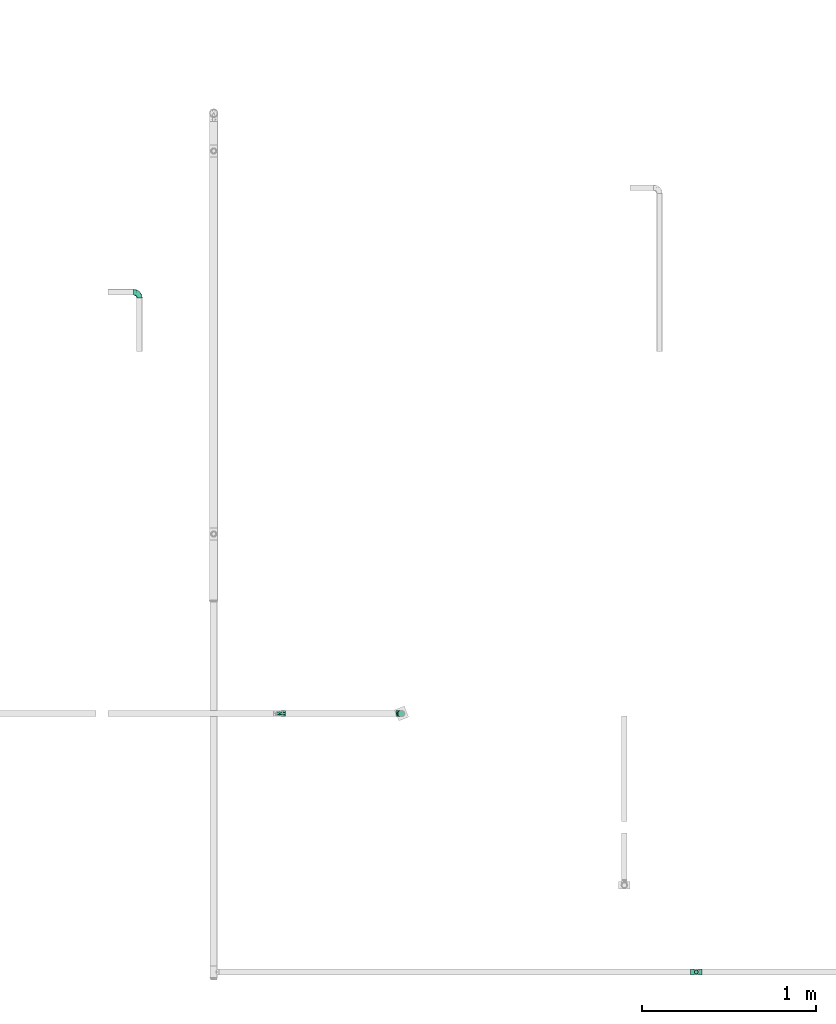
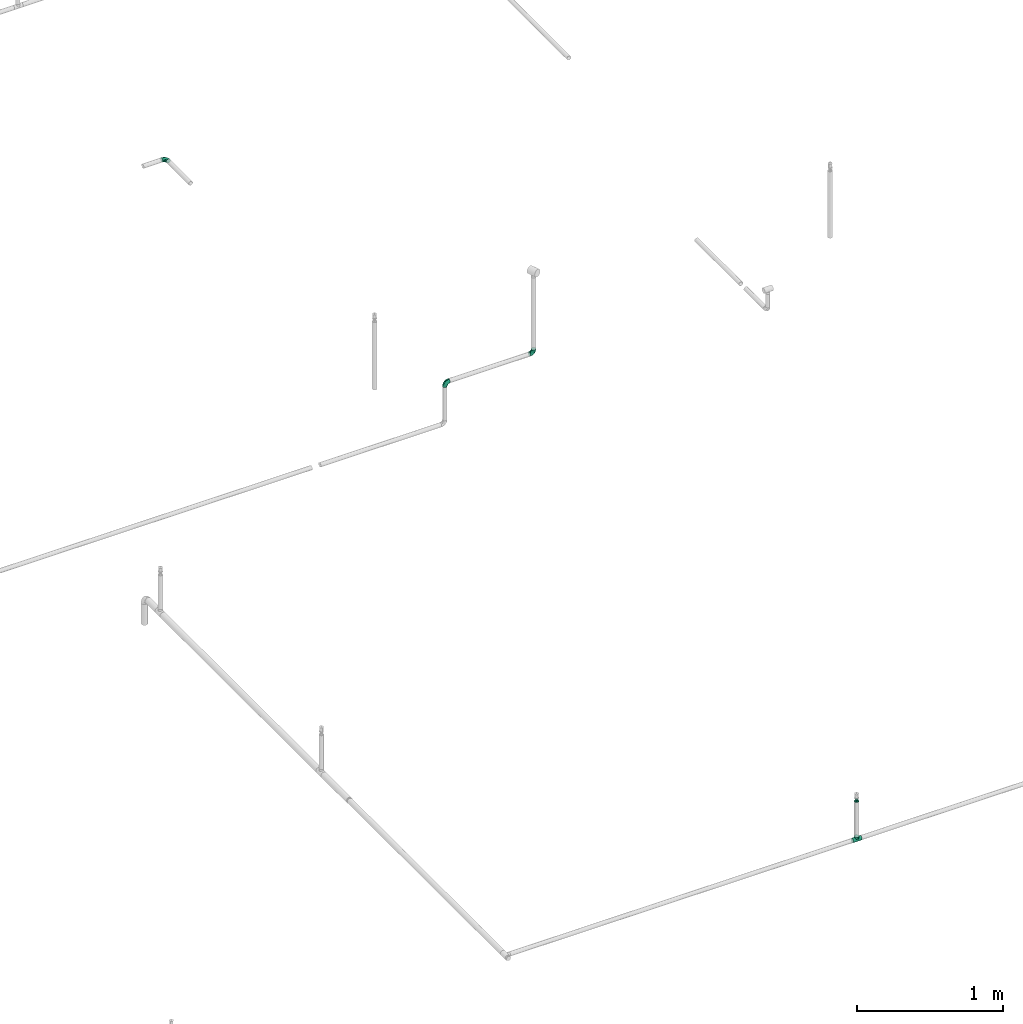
# One storey, part 28 of 63: 5 flow fittings.
"""IFC2X3 building model written with IfcOpenShell, lengths in millimetres."""

import ifcopenshell
import ifcopenshell.guid

model = None  # the IFC model being written
_history = None  # IfcOwnerHistory: only IFC2X3 demands one
_inside = {}  # id of a spatial element -> (the spatial element, [elements in it])
_under = {}  # id of a project, library or spatial element -> (it, [spatial elements below it])
_declared = {}  # id of a project -> (the project, [libraries it declares])
_typed = {}  # id of a type object -> (the type object, [elements of that type])
_made_of = {}  # id of a material, layer set ... -> (it, [elements and type objects made of it])


def new_model(schema):
    """Start an empty IFC model of exactly this schema.

    Asked for "IFC4X3", IfcOpenShell would pick the latest addendum, in which some entities
    have other attributes; the version numbers below select the first issue.
    IFC2X3 requires an IfcOwnerHistory on every rooted entity: one is made here for all.
    """
    global model, _history
    if schema == "IFC4X3":
        model = ifcopenshell.file(schema_version=(4, 3, 0, 0))
    else:
        model = ifcopenshell.file(schema=schema)
    _inside.clear()
    _under.clear()
    _declared.clear()
    _typed.clear()
    _made_of.clear()
    _history = None
    if model.schema == "IFC2X3":
        org = make("IfcOrganization", Name="unknown")
        user = make(
            "IfcPersonAndOrganization",
            ThePerson=make("IfcPerson", FamilyName="unknown"),
            TheOrganization=org,
        )
        app = make(
            "IfcApplication",
            ApplicationDeveloper=org,
            Version="unknown",
            ApplicationFullName="unknown",
            ApplicationIdentifier="unknown",
        )
        _history = make(
            "IfcOwnerHistory",
            OwningUser=user,
            OwningApplication=app,
            ChangeAction="ADDED",
            CreationDate=0,
        )
    return model


def make(cls, **values):
    """One entity of the class cls with the attributes given. An attribute that is None is left unset."""
    return model.create_entity(
        cls, **{name: value for name, value in values.items() if value is not None}
    )


def entity(cls, *values):
    """Any entity or typed value of the class cls, its attributes in the order of the schema. None: left unset."""
    e = model.create_entity(cls)
    for i, value in enumerate(values):
        if value is not None:
            e[i] = value
    return e


def rooted(cls, **values):
    """An entity with a GlobalId (a new one), such as an element, a storey or a relation."""
    return make(cls, GlobalId=ifcopenshell.guid.new(), OwnerHistory=_history, **values)


def si_unit(unit_type, name, prefix=None):
    """IfcSIUnit, for example si_unit("LENGTHUNIT", "METRE", prefix="MILLI")."""
    return make("IfcSIUnit", UnitType=unit_type, Prefix=prefix, Name=name)


def converted_unit(unit_type, name, factor, base, dimensions=None, offset=None):
    """IfcConversionBasedUnit, such as the inch: factor (a typed value) times the base unit."""
    return make(
        "IfcConversionBasedUnit"
        if offset is None
        else "IfcConversionBasedUnitWithOffset",
        ConversionOffset=offset,
        Dimensions=None
        if dimensions is None
        else entity("IfcDimensionalExponents", *dimensions),
        UnitType=unit_type,
        Name=name,
        ConversionFactor=make(
            "IfcMeasureWithUnit", ValueComponent=factor, UnitComponent=base
        ),
    )


def derived_unit(unit_type, elements):
    """IfcDerivedUnit: a product of units, each with its exponent."""
    return make(
        "IfcDerivedUnit",
        Elements=[
            make("IfcDerivedUnitElement", Unit=unit, Exponent=power)
            for unit, power in elements
        ],
        UnitType=unit_type,
    )


def assignment(units):
    """IfcUnitAssignment: the units of a project."""
    return None if units is None else make("IfcUnitAssignment", Units=units)


def point(xyz):
    """IfcCartesianPoint."""
    return None if xyz is None else make("IfcCartesianPoint", Coordinates=xyz)


def direction(xyz):
    """IfcDirection."""
    return None if xyz is None else make("IfcDirection", DirectionRatios=xyz)


def frame(location, z_axis=None, x_axis=None):
    """IfcAxis2Placement3D, a coordinate frame: its origin and axes. An axis left out is left unset."""
    return make(
        "IfcAxis2Placement3D",
        Location=point(location),
        Axis=direction(z_axis),
        RefDirection=direction(x_axis),
    )


def origin_with_axes():
    """The frame at (0, 0, 0) with the z axis (0, 0, 1) and the x axis (1, 0, 0) written out."""
    return frame((0.0, 0.0, 0.0), z_axis=(0.0, 0.0, 1.0), x_axis=(1.0, 0.0, 0.0))


def place(relative_to, where):
    """IfcLocalPlacement: puts the frame where relative to a parent placement (None: the world)."""
    return make(
        "IfcLocalPlacement", PlacementRelTo=relative_to, RelativePlacement=where
    )


def context(
    kind, dimensions, precision=None, world=None, true_north=None, identifier=None
):
    """IfcGeometricRepresentationContext, for example the 3D "Model" context."""
    return make(
        "IfcGeometricRepresentationContext",
        ContextIdentifier=identifier,
        ContextType=kind,
        CoordinateSpaceDimension=dimensions,
        Precision=precision,
        WorldCoordinateSystem=world,
        TrueNorth=true_north,
    )


def subcontext(parent, identifier, kind, view, scale=None):
    """IfcGeometricRepresentationSubContext, for example "Body" below "Model"."""
    return make(
        "IfcGeometricRepresentationSubContext",
        ContextIdentifier=identifier,
        ContextType=kind,
        ParentContext=parent,
        TargetScale=scale,
        TargetView=view,
    )


def project(units=None, contexts=None):
    """IfcProject with its units and contexts."""
    return rooted(
        "IfcProject",
        Name="project",
        RepresentationContexts=contexts,
        UnitsInContext=assignment(units),
    )


def spatial(cls, under=None, at=None, **own):
    """A site, building, storey or space (cls), placed at a placement, below another one or the project."""
    s = rooted(cls, ObjectPlacement=at, **own)
    if under is not None:
        _under.setdefault(under.id(), (under, []))[1].append(s)
    return s


def faces_of(points, faces, orient=None, outer=None):
    """IfcFace entities. A face is a list of loops; a loop is a list of indices into points, from 0.

    orient and outer hold one flag for each loop. By default every Orientation is true, the
    first loop of a face is its IfcFaceOuterBound and the others are IfcFaceBound.
    """
    made = []
    for i, loops in enumerate(faces):
        bounds = []
        for j, loop in enumerate(loops):
            is_outer = j == 0 if outer is None else outer[i][j]
            bounds.append(
                make(
                    "IfcFaceOuterBound" if is_outer else "IfcFaceBound",
                    Bound=make("IfcPolyLoop", Polygon=[points[k] for k in loop]),
                    Orientation=True if orient is None else orient[i][j],
                )
            )
        made.append(make("IfcFace", Bounds=bounds))
    return made


def open_shell(faces, orient=None, outer=None):
    """The faces of one IfcOpenShell. surface_model builds it on its shared points."""
    return ("IfcOpenShell", faces, orient, outer)


def surface_model(cls, points, shells):
    """IfcFaceBasedSurfaceModel or IfcShellBasedSurfaceModel (cls): surfaces that need not close."""
    shared = [point(p) for p in points]
    made = [make(c, CfsFaces=faces_of(shared, fs, o, b)) for c, fs, o, b in shells]
    if cls == "IfcFaceBasedSurfaceModel":
        return make(cls, FbsmFaces=made)
    return make(cls, SbsmBoundary=made)


def shape(context_of_items, identifier, shape_type, items):
    """IfcShapeRepresentation: the items that make up one representation, for example the "Body"."""
    return make(
        "IfcShapeRepresentation",
        ContextOfItems=context_of_items,
        RepresentationIdentifier=identifier,
        RepresentationType=shape_type,
        Items=items,
    )


def source(mapping_origin, context_of_items, identifier, shape_type, items):
    """IfcRepresentationMap: a shape defined once, which mapped items show again and again."""
    return make(
        "IfcRepresentationMap",
        MappingOrigin=mapping_origin,
        MappedRepresentation=shape(context_of_items, identifier, shape_type, items),
    )


def transform(
    local_origin,
    x_axis=None,
    y_axis=None,
    z_axis=None,
    scale=None,
    scale2=None,
    scale3=None,
    uniform=True,
):
    """IfcCartesianTransformationOperator3D, or its non-uniform kind. x_axis, y_axis, z_axis: its Axis1, 2, 3."""
    if uniform:
        return make(
            "IfcCartesianTransformationOperator3D",
            Axis1=direction(x_axis),
            Axis2=direction(y_axis),
            LocalOrigin=point(local_origin),
            Scale=scale,
            Axis3=direction(z_axis),
        )
    return make(
        "IfcCartesianTransformationOperator3DnonUniform",
        Axis1=direction(x_axis),
        Axis2=direction(y_axis),
        LocalOrigin=point(local_origin),
        Scale=scale,
        Axis3=direction(z_axis),
        Scale2=scale2,
        Scale3=scale3,
    )


def mapped(mapping_source, mapping_target):
    """IfcMappedItem: shows the shape of a source again, moved by a transform."""
    return make(
        "IfcMappedItem", MappingSource=mapping_source, MappingTarget=mapping_target
    )


def made_of(thing, what):
    """Note that an element or type object is made of a material, layer set ...; save() writes the relation."""
    if what is not None:
        _made_of.setdefault(what.id(), (what, []))[1].append(thing)
    return thing


def type_object(cls, material=None, **own):
    """A type object (cls), such as IfcWallType, which elements share."""
    return made_of(rooted(cls, **own), material)


def element(
    cls,
    number,
    at=None,
    inside=None,
    cuts=None,
    type_object=None,
    material=None,
    context=None,
    identifier="Body",
    shape_type=None,
    held_by="IfcProductDefinitionShape",
    body=None,
    shapes=None,
    **own,
):
    """One element of the class cls, such as IfcWall. Its Tag is "e" and its number.

    at: its placement. inside: the storey or other place that contains it. cuts: it is an
    opening in that element (IfcRelVoidsElement). A single representation is given by context,
    identifier, shape_type and body (its items); several are given by shapes. held_by: the class
    of the entity that holds the representations. save() writes the other relations.
    """
    e = rooted(cls, Tag="e%d" % number, ObjectPlacement=at, **own)
    if body is not None:
        shapes = [shape(context, identifier, shape_type, body)]
    if shapes is not None:
        e.Representation = make(held_by, Representations=shapes)
    if inside is not None:
        _inside.setdefault(inside.id(), (inside, []))[1].append(e)
    if cuts is not None:
        rooted(
            "IfcRelVoidsElement", RelatingBuildingElement=cuts, RelatedOpeningElement=e
        )
    if type_object is not None:
        _typed.setdefault(type_object.id(), (type_object, []))[1].append(e)
    return made_of(e, material)


def aggregate(whole, parts):
    """IfcRelAggregates: a whole, such as a stair, and the parts it consists of."""
    return rooted("IfcRelAggregates", RelatingObject=whole, RelatedObjects=parts)


def save(model, path):
    """Write the relations noted so far, then the file.

    IfcRelAggregates (storeys below a building ...), IfcRelContainedInSpatialStructure (elements
    in a storey), IfcRelDefinesByType, IfcRelAssociatesMaterial and IfcRelDeclares: one each for
    every whole, place, type object, material and project.
    """
    for whole, parts in _under.values():
        aggregate(whole, parts)
    for where, things in _inside.values():
        rooted(
            "IfcRelContainedInSpatialStructure",
            RelatedElements=things,
            RelatingStructure=where,
        )
    for kind, things in _typed.values():
        rooted("IfcRelDefinesByType", RelatedObjects=things, RelatingType=kind)
    for what, things in _made_of.values():
        rooted("IfcRelAssociatesMaterial", RelatedObjects=things, RelatingMaterial=what)
    for by, libraries in _declared.values():
        rooted("IfcRelDeclares", RelatingContext=by, RelatedDefinitions=libraries)
    model.write(path)


model = new_model("IFC2X3")

# Units and contexts
model_context = context("Model", 3, precision=0.01, world=frame((0.0, 4.29681676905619e-09, 0.0)), true_north=direction((4.01073788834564e-13, 1.0)))
plan_context = context("Plan", 3, precision=0.01, world=frame((0.0, 4.29681676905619e-09, 0.0)), true_north=direction((4.01073788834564e-13, 1.0)))
body_context = subcontext(model_context, "Body", "Model", "MODEL_VIEW")
ifc_project = project(units=[converted_unit("PLANEANGLEUNIT", "DEGREE", entity("IfcPositiveLengthMeasure", 0.0174532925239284), si_unit("PLANEANGLEUNIT", "RADIAN"), dimensions=[0, 0, 0, 0, 0, 0, 0]), si_unit("AREAUNIT", "SQUARE_METRE"), si_unit("LENGTHUNIT", "METRE", prefix="MILLI"), si_unit("MASSUNIT", "GRAM", prefix="KILO"), si_unit("POWERUNIT", "WATT"), si_unit("PRESSUREUNIT", "PASCAL", prefix="KILO"), si_unit("FORCEUNIT", "NEWTON", prefix="KILO"), si_unit("ELECTRICVOLTAGEUNIT", "VOLT"), si_unit("ELECTRICCURRENTUNIT", "AMPERE"), si_unit("THERMODYNAMICTEMPERATUREUNIT", "DEGREE_CELSIUS"), si_unit("TIMEUNIT", "SECOND"), si_unit("VOLUMEUNIT", "CUBIC_METRE"), derived_unit("LINEARVELOCITYUNIT", [(si_unit("LENGTHUNIT", "METRE"), 1), (si_unit("TIMEUNIT", "SECOND"), -1)]), derived_unit("VOLUMETRICFLOWRATEUNIT", [(si_unit("VOLUMEUNIT", "CUBIC_METRE"), 1), (si_unit("TIMEUNIT", "SECOND"), -1)]), derived_unit("THERMALTRANSMITTANCEUNIT", [(si_unit("POWERUNIT", "WATT"), 1), (si_unit("THERMODYNAMICTEMPERATUREUNIT", "KELVIN"), -1), (si_unit("AREAUNIT", "SQUARE_METRE"), -1)]), derived_unit("SOUNDPRESSUREUNIT", [(si_unit("PRESSUREUNIT", "PASCAL"), 1)])], contexts=[model_context, plan_context])

# Site, building, storey
site_placement = place(None, frame((0.0, -4.29681676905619e-09, 0.0), z_axis=(0.0, 0.0, 1.0), x_axis=(1.0, 0.0, 0.0)))
site = spatial("IfcSite", under=ifc_project, at=site_placement, CompositionType="ELEMENT")
building_placement = place(site_placement, frame((0.0, 4.29681676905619e-09, 0.0), z_axis=(0.0, 0.0, 1.0), x_axis=(1.0, 0.0, 0.0)))
building = spatial("IfcBuilding", under=site, at=building_placement, Name="mc-building", CompositionType="ELEMENT")
storey_placement = place(building_placement, frame((0.0, 0.0, 207370.0), z_axis=(0.0, 0.0, 1.0), x_axis=(1.0, 0.0, 0.0)))
storey = spatial("IfcBuildingStorey", under=building, at=storey_placement, Name="Nivå E", CompositionType="ELEMENT", Elevation=207370.0)

# Flow fittings
pipe_fitting_type_1 = type_object("IfcPipeFittingType", Name="magi_pipe_fe_reducer_centric_short_NOR", PredefinedType="TRANSITION")
shared_shape_1 = source(origin_with_axes(), body_context, "Body", "SurfaceModel", [
    surface_model("IfcShellBasedSurfaceModel", [(14.4, 5.35, -9.26647), (14.4, 0.0, -10.7), (14.4, 2.76936, -10.33541), (14.4, 10.33541, -2.76936), (14.4, 7.56604, -7.56604), (14.4, -10.33541, -2.76936), (14.4, 9.26647, -5.35), (14.4, 0.0, 10.7), (14.4, -5.35, -9.26647), (14.4, -2.76936, -10.33541), (14.4, -7.56604, -7.56604), (14.4, -9.26647, -5.35), (14.4, 10.7, 0.0), (14.4, 10.33541, 2.76936), (14.4, 9.26647, 5.35), (14.4, 7.56604, 7.56604), (14.4, 2.76936, 10.33541), (14.4, 5.35, 9.26647), (14.4, -10.33541, 2.76936), (14.4, -7.56604, 7.56604), (14.4, -9.26647, 5.35), (14.4, -10.7, 0.0), (14.4, -2.76936, 10.33541), (14.4, -5.35, 9.26647), (12.4, 2.76936, 10.33541), (12.4, -10.33541, -2.76936), (12.4, 0.0, 10.7), (12.4, 5.35, 9.26647), (12.4, 7.56604, 7.56604), (12.4, 9.26647, 5.35), (12.4, 10.33541, 2.76936), (12.4, -10.33541, 2.76936), (12.4, -2.76936, 10.33541), (12.4, -7.56604, 7.56604), (12.4, -5.35, 9.26647), (12.4, -9.26647, 5.35), (12.4, -10.7, 0.0), (12.4, 10.33541, -2.76936), (12.4, 5.35, -9.26647), (12.4, 9.26647, -5.35), (12.4, 7.56604, -7.56604), (12.4, 2.76936, -10.33541), (12.4, -9.26647, -5.35), (12.4, -5.35, -9.26647), (12.4, -7.56604, -7.56604), (12.4, 0.0, -10.7), (12.4, -2.76936, -10.33541), (12.4, 10.7, 0.0), (-2.0, 11.9501, 11.9501), (-2.0, 0.0, 16.9), (-2.0, 4.37404, 16.32415), (-2.0, 8.45, 14.63583), (-2.0, 14.63583, 8.45), (-2.0, 16.32415, 4.37404), (-2.0, -16.32415, 4.37404), (-2.0, -8.45, 14.63583), (-2.0, -14.63583, 8.45), (-2.0, -11.9501, 11.9501), (-2.0, -4.37404, 16.32415), (-2.0, -16.32415, -4.37404), (-2.0, -16.9, 0.0), (-2.0, -8.45, -14.63583), (-2.0, 16.32415, -4.37404), (-2.0, 11.9501, -11.9501), (-2.0, 14.63583, -8.45), (-2.0, 8.45, -14.63583), (-2.0, 4.37404, -16.32415), (-2.0, 0.0, -16.9), (-2.0, -11.9501, -11.9501), (-2.0, -14.63583, -8.45), (-2.0, -4.37404, -16.32415), (-2.0, 16.9, 0.0), (0.0, 4.37404, -16.32415), (0.0, 8.45, -14.63583), (0.0, 11.9501, -11.9501), (0.0, 0.0, -16.9), (0.0, 16.32415, -4.37404), (0.0, 16.32415, 4.37404), (0.0, 14.63583, -8.45), (0.0, -8.45, -14.63583), (0.0, -4.37404, -16.32415), (0.0, -11.9501, -11.9501), (0.0, -16.32415, -4.37404), (0.0, -14.63583, -8.45), (0.0, -16.32415, 4.37404), (0.0, 16.9, 0.0), (0.0, 14.63583, 8.45), (0.0, 11.9501, 11.9501), (0.0, 4.37404, 16.32415), (0.0, 8.45, 14.63583), (0.0, 0.0, 16.9), (0.0, -14.63583, 8.45), (0.0, -16.9, 0.0), (0.0, -8.45, 14.63583), (0.0, -11.9501, 11.9501), (0.0, -4.37404, 16.32415), (12.4, 9.3625, -2.31662), (0.0, 14.42505, -5.97505), (0.0, 15.66253, -2.98753), (12.4, -6.6875, -6.94985), (0.0, -13.18758, -8.96258), (0.0, 2.98753, -15.66253), (12.4, 0.0, -9.26647), (12.4, 6.6875, -6.94985), (0.0, 8.96258, -13.18758), (12.4, -9.3625, -2.31662), (0.0, -15.66253, -2.98753), (0.0, -14.42505, -5.97505), (0.0, 5.97505, -14.42505), (0.0, -2.98753, -15.66253), (0.0, -8.96258, -13.18758), (0.0, 13.18758, -8.96258), (12.4, 8.025, -4.63324), (12.4, -2.675, -9.26647), (12.4, 2.675, -9.26647), (0.0, -5.97505, -14.42505), (12.4, -8.025, -4.63324), (12.4, -9.3625, 2.31662), (0.0, -14.42505, 5.97505), (0.0, -15.66253, 2.98753), (12.4, 6.6875, 6.94985), (0.0, 13.18758, 8.96258), (0.0, -2.98753, 15.66253), (12.4, 0.0, 9.26647), (12.4, -6.6875, 6.94985), (0.0, -8.96258, 13.18758), (12.4, 9.3625, 2.31662), (0.0, 15.66253, 2.98753), (0.0, 14.42505, 5.97505), (0.0, -5.97505, 14.42505), (0.0, 2.98753, 15.66253), (0.0, 8.96258, 13.18758), (0.0, -13.18758, 8.96258), (12.4, -8.025, 4.63324), (12.4, 2.675, 9.26647), (12.4, -2.675, 9.26647), (0.0, 5.97505, 14.42505), (12.4, 8.025, 4.63324)], [open_shell([[[0, 1, 2]], [[3, 0, 4]], [[5, 0, 3]], [[3, 4, 6]], [[7, 5, 3]], [[1, 8, 9]], [[1, 0, 8]], [[10, 5, 11]], [[5, 10, 8]], [[0, 5, 8]], [[3, 12, 13]], [[13, 14, 15]], [[13, 15, 16]], [[7, 3, 16]], [[16, 15, 17]], [[7, 18, 5]], [[18, 19, 20]], [[21, 5, 18]], [[19, 22, 23]], [[22, 19, 18]], [[7, 22, 18]], [[13, 16, 3]], [[24, 25, 26]], [[27, 25, 24]], [[28, 29, 30]], [[28, 25, 27]], [[31, 26, 25]], [[32, 33, 34]], [[33, 32, 31]], [[33, 31, 35]], [[32, 26, 31]], [[31, 25, 36]], [[30, 37, 28]], [[25, 28, 37]], [[38, 37, 39]], [[37, 38, 25]], [[38, 39, 40]], [[41, 25, 38]], [[42, 43, 44]], [[43, 42, 25]], [[43, 45, 46]], [[43, 25, 41]], [[41, 45, 43]], [[37, 30, 47]], [[25, 5, 36]], [[42, 11, 25]], [[8, 44, 43]], [[42, 44, 10]], [[9, 43, 46]], [[25, 11, 5]], [[5, 21, 36]], [[9, 8, 43]], [[10, 44, 8]], [[10, 11, 42]], [[1, 9, 46]], [[46, 45, 1]], [[41, 2, 45]], [[38, 0, 41]], [[6, 40, 39]], [[38, 40, 4]], [[3, 39, 37]], [[38, 4, 0]], [[0, 2, 41]], [[12, 3, 37]], [[6, 39, 3]], [[6, 4, 40]], [[47, 12, 37]], [[45, 2, 1]], [[30, 13, 47]], [[29, 14, 30]], [[17, 28, 27]], [[29, 28, 15]], [[16, 27, 24]], [[30, 14, 13]], [[13, 12, 47]], [[16, 17, 27]], [[15, 28, 17]], [[15, 14, 29]], [[7, 16, 24]], [[24, 26, 7]], [[32, 22, 26]], [[34, 23, 32]], [[20, 33, 35]], [[34, 33, 19]], [[18, 35, 31]], [[34, 19, 23]], [[23, 22, 32]], [[21, 18, 31]], [[20, 35, 18]], [[20, 19, 33]], [[36, 21, 31]], [[26, 22, 7]], [[48, 49, 50]], [[48, 50, 51]], [[48, 52, 53]], [[48, 53, 49]], [[49, 53, 54]], [[55, 56, 57]], [[55, 58, 49]], [[56, 55, 49]], [[49, 54, 56]], [[54, 59, 60]], [[54, 53, 61]], [[53, 62, 63]], [[63, 62, 64]], [[63, 65, 66]], [[61, 53, 63]], [[67, 63, 66]], [[59, 68, 69]], [[68, 59, 61]], [[61, 67, 70]], [[59, 54, 61]], [[63, 67, 61]], [[53, 71, 62]], [[72, 73, 74]], [[75, 72, 74]], [[74, 76, 77]], [[76, 74, 78]], [[74, 77, 79]], [[75, 79, 80]], [[75, 74, 79]], [[81, 82, 83]], [[82, 81, 79]], [[79, 84, 82]], [[77, 76, 85]], [[77, 86, 87]], [[77, 87, 88]], [[88, 84, 79]], [[88, 87, 89]], [[84, 88, 90]], [[90, 91, 84]], [[92, 82, 84]], [[91, 93, 94]], [[91, 90, 93]], [[93, 90, 95]], [[79, 77, 88]], [[59, 82, 60]], [[69, 83, 59]], [[79, 68, 61]], [[69, 68, 81]], [[80, 61, 70]], [[59, 83, 82]], [[82, 92, 60]], [[80, 79, 61]], [[81, 68, 79]], [[81, 83, 69]], [[75, 80, 70]], [[70, 67, 75]], [[66, 72, 67]], [[65, 73, 66]], [[78, 63, 64]], [[65, 63, 74]], [[76, 64, 62]], [[65, 74, 73]], [[73, 72, 66]], [[85, 76, 62]], [[78, 64, 76]], [[78, 74, 63]], [[71, 85, 62]], [[67, 72, 75]], [[53, 77, 71]], [[52, 86, 53]], [[89, 48, 51]], [[52, 48, 87]], [[88, 51, 50]], [[53, 86, 77]], [[77, 85, 71]], [[88, 89, 51]], [[87, 48, 89]], [[87, 86, 52]], [[90, 88, 50]], [[50, 49, 90]], [[58, 95, 49]], [[55, 93, 58]], [[91, 57, 56]], [[55, 57, 94]], [[84, 56, 54]], [[55, 94, 93]], [[93, 95, 58]], [[92, 84, 54]], [[91, 56, 84]], [[91, 94, 57]], [[60, 92, 54]], [[49, 95, 90]], [[27, 34, 47]], [[47, 34, 43]], [[43, 38, 47]], [[43, 34, 36]], [[90, 87, 94]], [[92, 94, 87]], [[87, 74, 92]], [[75, 92, 74]], [[81, 92, 75]], [[74, 87, 85]], [[96, 97, 98]], [[81, 99, 100]], [[101, 102, 75]], [[98, 85, 47]], [[74, 103, 104]], [[104, 103, 38]], [[105, 106, 107]], [[38, 108, 104]], [[102, 109, 75]], [[110, 99, 81]], [[47, 96, 98]], [[103, 111, 112]], [[109, 102, 113]], [[36, 92, 106]], [[102, 101, 114]], [[110, 115, 43]], [[96, 112, 97]], [[107, 116, 105]], [[36, 106, 105]], [[113, 115, 109]], [[43, 115, 113]], [[116, 107, 100]], [[108, 38, 114]], [[111, 103, 74]], [[111, 97, 112]], [[99, 110, 43]], [[116, 100, 99]], [[101, 108, 114]], [[117, 118, 119]], [[87, 120, 121]], [[122, 123, 90]], [[119, 92, 36]], [[94, 124, 125]], [[125, 124, 34]], [[126, 127, 128]], [[34, 129, 125]], [[123, 130, 90]], [[131, 120, 87]], [[36, 117, 119]], [[124, 132, 133]], [[130, 123, 134]], [[47, 85, 127]], [[123, 122, 135]], [[131, 136, 27]], [[117, 133, 118]], [[128, 137, 126]], [[47, 127, 126]], [[134, 136, 130]], [[27, 136, 134]], [[137, 128, 121]], [[129, 34, 135]], [[132, 124, 94]], [[132, 118, 133]], [[120, 131, 27]], [[137, 121, 120]], [[122, 129, 135]]])]),
])
flow_fitting_1_placement = place(storey_placement, frame((722412.90183, 434695.91689, 3018.36794), z_axis=(0.0, -1.0, 0.0), x_axis=(0.0, 0.0, 1.0)))
element("IfcFlowFitting", 1, at=flow_fitting_1_placement, inside=storey, type_object=pipe_fitting_type_1, Name="magi_pipe_fe_reducer_centric_short_NOR", context=body_context, shape_type="MappedRepresentation", body=[
    mapped(shared_shape_1, transform((0.0, 0.0, 0.0), scale=1.0)),
])
pipe_fitting_type_2 = type_object("IfcPipeFittingType", Name="magi_pipe_fe_tee_centric_90_NOR", PredefinedType="JUNCTION")
shared_shape_2 = source(origin_with_axes(), body_context, "Body", "SurfaceModel", [
    surface_model("IfcShellBasedSurfaceModel", [(-33.8, 4.37404, -16.32415), (-33.8, 0.0, -16.9), (-33.8, 16.32415, -4.37404), (-33.8, 8.45, -14.63583), (-33.8, 11.9501, -11.9501), (-33.8, 14.63583, -8.45), (-33.8, -16.9, 0.0), (-33.8, -11.9501, -11.9501), (-33.8, -14.63583, -8.45), (-33.8, -8.45, -14.63583), (-33.8, -4.37404, -16.32415), (-33.8, -16.32415, -4.37404), (-33.8, 14.63583, 8.45), (-33.8, 16.32415, 4.37404), (-33.8, -8.45, 14.63583), (-33.8, 8.45, 14.63583), (-33.8, 11.9501, 11.9501), (-33.8, 4.37404, 16.32415), (-33.8, 0.0, 16.9), (-33.8, -11.9501, 11.9501), (-33.8, -14.63583, 8.45), (-33.8, -16.32415, 4.37404), (-33.8, -4.37404, 16.32415), (-33.8, 16.9, 0.0), (33.8, 4.37404, -16.32415), (33.8, -16.9, 0.0), (33.8, 0.0, -16.9), (33.8, 14.63583, -8.45), (33.8, 8.45, -14.63583), (33.8, 16.32415, -4.37404), (33.8, 11.9501, -11.9501), (33.8, -16.32415, 4.37404), (33.8, -8.45, -14.63583), (33.8, -4.37404, -16.32415), (33.8, -11.9501, -11.9501), (33.8, -14.63583, -8.45), (33.8, -16.32415, -4.37404), (33.8, 16.32415, 4.37404), (33.8, 8.45, 14.63583), (33.8, 14.63583, 8.45), (33.8, 11.9501, 11.9501), (33.8, -8.45, 14.63583), (33.8, 4.37404, 16.32415), (33.8, -14.63583, 8.45), (33.8, -11.9501, 11.9501), (33.8, 0.0, 16.9), (33.8, -4.37404, 16.32415), (33.8, 16.9, 0.0), (16.28698, -16.28698, 4.51047), (16.9, -16.9, 0.0), (14.62704, -14.62704, 8.4652), (9.47213, -9.47213, 13.99602), (12.26343, -12.26343, 11.62834), (-16.9, -16.9, 0.0), (-16.28698, -16.28698, 4.51047), (-14.62704, -14.62704, 8.4652), (-12.26343, -12.26343, 11.62834), (-9.47213, -9.47213, 13.99602), (-6.42894, -6.42894, 15.62942), (6.42894, -6.42894, 15.62942), (3.24522, -3.24522, 16.58549), (0.0, 0.0, 16.9), (-3.24522, -3.24522, 16.58549), (3.24522, -3.24522, -16.58549), (0.0, 0.0, -16.9), (-3.24522, -3.24522, -16.58549), (-6.42894, -6.42894, -15.62942), (6.42894, -6.42894, -15.62942), (9.47213, -9.47213, -13.99602), (12.26343, -12.26343, -11.62834), (14.62704, -14.62704, -8.4652), (16.28698, -16.28698, -4.51047), (-9.47213, -9.47213, -13.99602), (-12.26343, -12.26343, -11.62834), (-16.28698, -16.28698, -4.51047), (-14.62704, -14.62704, -8.4652), (4.37404, -25.35, -16.32415), (-16.9, -25.35, 0.0), (0.0, -25.35, -16.9), (14.63583, -25.35, -8.45), (8.45, -25.35, -14.63583), (16.32415, -25.35, -4.37404), (11.9501, -25.35, -11.9501), (-11.9501, -25.35, -11.9501), (-8.45, -25.35, -14.63583), (-4.37404, -25.35, -16.32415), (-14.63583, -25.35, -8.45), (-16.32415, -25.35, -4.37404), (16.9, -25.35, 0.0), (8.45, -25.35, 14.63583), (16.32415, -25.35, 4.37404), (14.63583, -25.35, 8.45), (-8.45, -25.35, 14.63583), (11.9501, -25.35, 11.9501), (4.37404, -25.35, 16.32415), (-16.32415, -25.35, 4.37404), (-11.9501, -25.35, 11.9501), (-14.63583, -25.35, 8.45), (0.0, -25.35, 16.9), (-4.37404, -25.35, 16.32415)], [open_shell([[[0, 1, 2]], [[3, 0, 4]], [[0, 2, 5]], [[4, 0, 5]], [[6, 2, 1]], [[7, 8, 9]], [[1, 10, 9]], [[11, 6, 8]], [[1, 9, 8]], [[1, 8, 6]], [[6, 12, 2]], [[12, 13, 2]], [[14, 12, 6]], [[12, 14, 15]], [[16, 12, 15]], [[17, 15, 18]], [[19, 14, 20]], [[21, 20, 14]], [[22, 18, 14]], [[14, 6, 21]], [[14, 18, 15]], [[23, 2, 13]], [[24, 25, 26]], [[27, 24, 28]], [[27, 29, 24]], [[27, 28, 30]], [[31, 25, 24]], [[26, 32, 33]], [[26, 34, 32]], [[35, 25, 36]], [[35, 34, 26]], [[25, 35, 26]], [[24, 29, 31]], [[29, 37, 38]], [[38, 37, 39]], [[38, 31, 29]], [[38, 39, 40]], [[41, 38, 42]], [[43, 41, 44]], [[41, 43, 31]], [[41, 45, 46]], [[41, 31, 38]], [[42, 45, 41]], [[29, 47, 37]], [[31, 43, 48]], [[25, 31, 49]], [[49, 31, 48]], [[43, 50, 48]], [[44, 41, 51]], [[50, 43, 52]], [[51, 52, 44]], [[52, 43, 44]], [[53, 54, 21]], [[53, 21, 6]], [[21, 54, 20]], [[54, 55, 20]], [[56, 57, 19]], [[19, 20, 56]], [[19, 57, 14]], [[56, 20, 55]], [[14, 57, 58]], [[51, 41, 59]], [[60, 45, 61]], [[59, 46, 60]], [[46, 59, 41]], [[60, 46, 45]], [[61, 45, 42]], [[39, 37, 13]], [[16, 38, 40]], [[12, 40, 39]], [[42, 38, 15]], [[23, 37, 47]], [[62, 61, 18]], [[62, 22, 58]], [[22, 62, 18]], [[58, 22, 14]], [[61, 17, 18]], [[42, 17, 61]], [[15, 17, 42]], [[15, 38, 16]], [[12, 16, 40]], [[13, 12, 39]], [[37, 23, 13]], [[5, 27, 30]], [[23, 47, 29]], [[30, 28, 3]], [[27, 2, 29]], [[26, 33, 63]], [[26, 64, 24]], [[64, 26, 63]], [[28, 24, 0]], [[64, 0, 24]], [[4, 30, 3]], [[2, 27, 5]], [[5, 30, 4]], [[2, 23, 29]], [[65, 66, 10]], [[1, 0, 64]], [[1, 65, 10]], [[66, 9, 10]], [[0, 3, 28]], [[1, 64, 65]], [[63, 33, 67]], [[32, 34, 68]], [[69, 68, 34]], [[35, 70, 69]], [[69, 34, 35]], [[32, 68, 67]], [[36, 25, 49]], [[36, 71, 35]], [[71, 36, 49]], [[35, 71, 70]], [[72, 9, 66]], [[72, 7, 9]], [[7, 72, 73]], [[7, 73, 8]], [[74, 53, 11]], [[75, 74, 8]], [[74, 11, 8]], [[11, 53, 6]], [[75, 8, 73]], [[32, 67, 33]], [[76, 77, 78]], [[79, 76, 80]], [[79, 81, 76]], [[79, 80, 82]], [[77, 76, 81]], [[78, 83, 84]], [[84, 85, 78]], [[86, 77, 87]], [[83, 78, 86]], [[77, 86, 78]], [[81, 88, 77]], [[89, 88, 90]], [[89, 90, 91]], [[92, 77, 89]], [[89, 91, 93]], [[92, 89, 94]], [[95, 96, 97]], [[96, 95, 92]], [[92, 98, 99]], [[95, 77, 92]], [[94, 98, 92]], [[89, 77, 88]], [[77, 95, 53]], [[54, 53, 95]], [[97, 96, 56]], [[96, 92, 57]], [[95, 97, 54]], [[58, 92, 99]], [[55, 54, 97]], [[56, 55, 97]], [[58, 57, 92]], [[98, 61, 62]], [[58, 99, 62]], [[56, 96, 57]], [[62, 99, 98]], [[94, 60, 98]], [[89, 59, 94]], [[91, 90, 48]], [[52, 93, 91]], [[93, 51, 89]], [[49, 90, 88]], [[59, 60, 94]], [[51, 59, 89]], [[49, 48, 90]], [[50, 52, 91]], [[48, 50, 91]], [[51, 93, 52]], [[98, 60, 61]], [[88, 81, 49]], [[71, 49, 81]], [[79, 82, 69]], [[82, 80, 68]], [[81, 79, 71]], [[67, 80, 76]], [[70, 71, 79]], [[69, 70, 79]], [[67, 68, 80]], [[78, 64, 63]], [[67, 76, 63]], [[69, 82, 68]], [[63, 76, 78]], [[85, 65, 78]], [[84, 66, 85]], [[86, 87, 74]], [[86, 73, 83]], [[72, 84, 83]], [[53, 87, 77]], [[66, 65, 85]], [[72, 66, 84]], [[53, 74, 87]], [[75, 73, 86]], [[74, 75, 86]], [[72, 83, 73]], [[78, 65, 64]]])]),
])
flow_fitting_2_placement = place(storey_placement, frame((722412.90183, 434695.91689, 2700.0), z_axis=(0.0, -1.0, 0.0), x_axis=(-1.0, 0.0, 0.0)))
element("IfcFlowFitting", 2, at=flow_fitting_2_placement, inside=storey, type_object=pipe_fitting_type_2, Name="magi_pipe_fe_tee_centric_90_NOR", context=body_context, shape_type="MappedRepresentation", body=[
    mapped(shared_shape_2, transform((0.0, 0.0, 0.0), scale=1.0)),
])
pipe_fitting_type_3 = type_object("IfcPipeFittingType", Name="magi_pipe_fe_elbow_short_001", PredefinedType="BEND")
shared_shape_3 = source(origin_with_axes(), body_context, "Body", "SurfaceModel", [
    surface_model("IfcShellBasedSurfaceModel", [(-33.8, 8.45, -14.63583), (-33.8, 4.37404, -16.32415), (-33.8, 11.9501, -11.9501), (-33.8, -11.9501, -11.9501), (-33.8, -14.63583, -8.45), (-33.8, -8.45, -14.63583), (-33.8, 0.0, -16.9), (-33.8, -4.37404, -16.32415), (-33.8, -4.37404, 16.32415), (-33.8, 0.0, 16.9), (-33.8, -8.45, 14.63583), (-33.8, 16.32415, -4.37404), (-33.8, 14.63583, -8.45), (-33.8, -16.32415, -4.37404), (-33.8, -16.9, 0.0), (-33.8, -16.32415, 4.37404), (-33.8, 11.9501, 11.9501), (-33.8, 14.63583, 8.45), (-33.8, 16.32415, 4.37404), (-33.8, 4.37404, 16.32415), (-33.8, 8.45, 14.63583), (-33.8, -14.63583, 8.45), (-33.8, -11.9501, 11.9501), (-33.8, 16.9, 0.0), (-11.9501, 33.8, -11.9501), (0.0, 33.8, -16.9), (-4.37404, 33.8, -16.32415), (-8.45, 33.8, -14.63583), (-14.63583, 33.8, -8.45), (-16.32415, 33.8, -4.37404), (14.63583, 33.8, -8.45), (8.45, 33.8, 14.63583), (16.32415, 33.8, -4.37404), (8.45, 33.8, -14.63583), (11.9501, 33.8, -11.9501), (4.37404, 33.8, -16.32415), (16.32415, 33.8, 4.37404), (16.9, 33.8, 0.0), (-11.9501, 33.8, 11.9501), (-16.32415, 33.8, 4.37404), (-14.63583, 33.8, 8.45), (-8.45, 33.8, 14.63583), (-4.37404, 33.8, 16.32415), (11.9501, 33.8, 11.9501), (14.63583, 33.8, 8.45), (0.0, 33.8, 16.9), (4.37404, 33.8, 16.32415), (-16.9, 33.8, 0.0), (-24.79389, -13.12945, 9.48721), (-22.19287, -9.75018, 12.59315), (-24.09897, -14.97035, 0.0), (-14.93934, -10.76256, 8.5297), (-22.46095, -14.75051, 5.27077), (14.75051, 22.46094, 5.27077), (11.9251, 13.23888, 4.33236), (13.04069, 14.39795, 0.0), (7.71387, 13.68847, 11.55891), (9.75018, 22.19287, 12.59315), (4.10169, 13.0571, 14.04018), (-24.84007, -6.39063, 15.2048), (-25.81779, -2.23879, 16.61097), (-23.66549, 2.59054, 16.87119), (-26.50418, 14.06512, 11.08152), (-24.21253, 17.66365, 7.72657), (-29.58514, 15.86957, 7.00283), (-6.17382, -7.5455, 0.0), (-13.23888, -11.9251, 4.33236), (-14.39795, -13.04069, 0.0), (-17.81434, 18.87373, 11.97104), (-6.30846, 29.15138, 15.82987), (-2.31622, 25.28002, 16.85849), (-29.23923, 10.23435, 13.77053), (-1.45439, -2.85688, 7.61475), (-0.28326, 0.34872, 10.09509), (-5.74484, -4.04709, 10.4122), (-4.41137, 11.31918, 16.59407), (-8.39727, 3.10034, 15.7812), (-1.72649, 9.1306, 15.53089), (-17.39909, 24.75344, 7.64977), (-26.19233, 20.0512, 0.0), (-28.14518, 17.29657, 4.25857), (-26.05147, 6.6281, 15.96447), (-5.87354, 16.61944, 16.86968), (-12.51807, 12.51807, 16.48937), (-10.06312, 7.38516, 16.81295), (-3.01882, 3.01882, 13.81718), (-13.0571, -4.10169, 14.04018), (-16.82553, -0.15166, 16.38038), (10.76256, 14.93934, 8.5297), (13.12945, 24.79389, 9.48721), (6.39063, 24.84007, 15.2048), (2.23879, 25.81779, 16.61097), (-13.68847, -7.71387, 11.55891), (14.97035, 24.09897, 0.0), (-7.30894, 22.89991, 16.09489), (-10.67958, 26.17414, 14.008), (-12.78295, 18.26924, 15.06066), (-13.88562, 22.45231, 12.93244), (-18.04944, 15.16501, 14.04434), (-23.11658, 20.08178, 4.02986), (-21.84989, 21.84989, 0.0), (-18.55817, 25.48277, 3.93065), (-13.95142, 26.94732, 11.03289), (-18.57098, 7.23906, 16.59756), (-16.58335, 4.14122, 16.89279), (-17.96666, 11.46709, 15.63151), (-9.84453, 17.54304, 16.18938), (0.15166, 16.82553, 16.38038), (-23.27207, 11.47201, 14.23154), (3.84842, 5.86994, 10.70473), (-8.0212, -7.54413, 7.93275), (1.00345, -2.19508, 4.57414), (5.13203, 3.01004, 5.90201), (5.24161, 1.7543, 2.53265), (8.70457, 7.04947, 3.99182), (-20.0512, 26.19233, 0.0), (8.4852, 8.76699, 7.09296), (-4.55488, -6.72064, 4.90681), (2.05031, -2.05031, 0.0), (7.5455, 6.17382, 0.0), (-26.75399, 2.1369, -16.845), (-14.61995, 24.73803, -11.27736), (-28.45274, -13.45335, -9.81895), (-26.00469, 6.63555, -15.96645), (-23.06726, 20.04573, -4.26202), (-13.80647, -4.26506, -14.17873), (-14.67501, -0.21081, -16.07388), (-6.7902, -0.2828, -13.8478), (-24.53586, 11.08096, -14.13417), (-26.72048, 14.00837, -11.05776), (10.0967, 24.44989, -12.75976), (5.83237, 21.40218, -15.03047), (6.66249, 28.54238, -15.38093), (-20.38182, 15.48705, -12.74596), (12.53268, 21.23441, -9.15363), (12.54494, 15.67504, -5.54878), (9.7522, 12.89279, -8.66343), (-15.65186, 19.64213, -13.01327), (-12.03528, 20.66498, -14.67665), (-15.61907, 15.61906, -14.83879), (-25.56551, -15.26206, 0.0), (-24.65452, -15.12934, -5.50955), (13.45335, 28.45274, -9.81895), (15.12934, 24.65452, -5.50955), (-7.35442, -8.31014, -5.65563), (-15.67504, -12.54494, -5.54878), (-24.44989, -10.0967, -12.75976), (0.16522, 0.41303, -9.71728), (-5.70658, -5.33066, -8.89288), (-5.13869, -2.37198, -11.53565), (-21.23441, -12.53268, -9.15363), (0.71146, 7.93863, -14.09382), (0.21081, 14.67501, -16.07388), (3.49291, 14.42772, -14.76381), (-24.89911, -2.13088, -16.591), (-28.54238, -6.66249, -15.38093), (-18.44386, -7.71663, -13.26957), (2.13088, 24.89911, -16.591), (-28.64342, 17.44413, -2.89318), (1.70017, -1.28722, -5.09504), (-16.57067, 26.81947, -7.36596), (-17.69055, 27.4263, -3.76405), (-12.89279, -9.7522, -8.66343), (-5.96611, 5.96611, -15.95814), (-20.53709, 20.09345, -8.28985), (-2.1369, 26.75399, -16.845), (-6.89872, 24.58781, -16.02578), (-10.60739, 26.53157, -13.98044), (-21.40218, -5.83237, -15.03047), (2.93192, 5.89627, -11.55917), (6.89393, 12.61842, -11.82233), (5.58056, 5.95325, -8.79455), (-3.99512, 18.61798, -16.89635), (8.31014, 7.35442, -5.65563), (-9.1383, 9.86148, -16.89041), (-9.99983, 16.02119, -16.39699), (-16.68576, 9.78031, -16.34199), (-27.01915, 16.61158, -7.12979), (15.26206, 25.56551, 0.0), (-18.61798, 3.99512, -16.89635), (-19.37495, 27.82495, 0.0), (-12.61842, -6.89393, -11.82233), (-18.84705, 19.14018, -10.96545)], [open_shell([[[0, 1, 2]], [[3, 4, 5]], [[6, 7, 5]], [[8, 9, 10]], [[1, 6, 2]], [[11, 12, 2]], [[4, 2, 6]], [[2, 13, 10]], [[5, 4, 6]], [[2, 4, 13]], [[14, 15, 13]], [[11, 2, 16]], [[11, 17, 18]], [[11, 16, 17]], [[19, 20, 16]], [[16, 2, 10]], [[19, 16, 10]], [[21, 22, 15]], [[22, 13, 15]], [[22, 10, 13]], [[10, 9, 19]], [[11, 18, 23]], [[24, 25, 26]], [[24, 26, 27]], [[24, 28, 29]], [[25, 24, 30]], [[31, 32, 24]], [[33, 30, 34]], [[33, 35, 25]], [[25, 30, 33]], [[32, 30, 24]], [[32, 36, 37]], [[38, 24, 29]], [[39, 40, 29]], [[40, 38, 29]], [[38, 41, 42]], [[38, 31, 24]], [[31, 38, 42]], [[36, 43, 44]], [[36, 32, 43]], [[31, 45, 46]], [[32, 31, 43]], [[42, 45, 31]], [[39, 29, 47]], [[22, 48, 49]], [[15, 14, 50]], [[51, 48, 52]], [[53, 54, 55]], [[48, 22, 21]], [[15, 52, 21]], [[56, 57, 58]], [[49, 10, 22]], [[49, 59, 10]], [[9, 60, 61]], [[62, 63, 64]], [[65, 66, 67]], [[57, 43, 31]], [[62, 68, 63]], [[42, 69, 70]], [[20, 71, 16]], [[8, 60, 9]], [[72, 73, 74]], [[75, 76, 77]], [[16, 62, 17]], [[40, 39, 78]], [[79, 23, 80]], [[64, 18, 17]], [[9, 61, 19]], [[19, 81, 20]], [[82, 83, 84]], [[74, 85, 86]], [[59, 86, 87]], [[88, 89, 57]], [[90, 31, 46]], [[44, 53, 36]], [[46, 45, 91]], [[54, 53, 88]], [[44, 89, 53]], [[92, 86, 49]], [[89, 44, 43]], [[10, 59, 8]], [[53, 55, 93]], [[93, 36, 53]], [[66, 52, 67]], [[94, 82, 70]], [[95, 96, 94]], [[97, 98, 96]], [[79, 99, 100]], [[41, 38, 95]], [[101, 100, 99]], [[68, 78, 63]], [[42, 41, 69]], [[23, 18, 80]], [[95, 94, 69]], [[78, 101, 99]], [[38, 102, 95]], [[70, 45, 42]], [[97, 95, 102]], [[15, 50, 52]], [[90, 57, 31]], [[57, 90, 58]], [[81, 19, 61]], [[103, 104, 84]], [[105, 81, 103]], [[38, 40, 102]], [[106, 96, 83]], [[94, 106, 82]], [[91, 70, 107]], [[71, 62, 16]], [[62, 108, 98]], [[86, 59, 49]], [[67, 52, 50]], [[60, 59, 87]], [[92, 49, 51]], [[86, 85, 76]], [[91, 90, 46]], [[37, 36, 93]], [[107, 77, 58]], [[107, 58, 90]], [[58, 85, 109]], [[110, 74, 92]], [[72, 74, 110]], [[66, 51, 52]], [[72, 111, 112]], [[113, 114, 112]], [[56, 88, 57]], [[52, 48, 21]], [[49, 48, 51]], [[57, 89, 43]], [[53, 89, 88]], [[103, 81, 61]], [[71, 81, 108]], [[18, 64, 80]], [[63, 78, 99]], [[47, 115, 101]], [[101, 115, 100]], [[40, 78, 102]], [[68, 102, 78]], [[97, 96, 95]], [[105, 98, 108]], [[103, 84, 83]], [[107, 70, 82]], [[76, 84, 87]], [[82, 84, 75]], [[70, 91, 45]], [[90, 91, 107]], [[59, 60, 8]], [[61, 60, 87]], [[73, 85, 74]], [[109, 112, 116]], [[103, 61, 104]], [[105, 103, 83]], [[96, 105, 83]], [[81, 105, 108]], [[96, 98, 105]], [[62, 98, 68]], [[61, 87, 104]], [[87, 84, 104]], [[86, 76, 87]], [[77, 76, 85]], [[58, 77, 85]], [[75, 77, 107]], [[82, 75, 107]], [[76, 75, 84]], [[81, 71, 20]], [[62, 71, 108]], [[95, 69, 41]], [[70, 69, 94]], [[62, 64, 17]], [[80, 63, 99]], [[63, 80, 64]], [[80, 99, 79]], [[66, 65, 117]], [[110, 66, 117]], [[112, 114, 116]], [[118, 117, 65]], [[110, 92, 51]], [[112, 111, 113]], [[119, 55, 54]], [[74, 86, 92]], [[58, 109, 56]], [[116, 56, 109]], [[66, 110, 51]], [[72, 110, 117]], [[111, 72, 117]], [[73, 112, 109]], [[117, 118, 111]], [[113, 111, 118]], [[118, 119, 113]], [[114, 119, 54]], [[119, 114, 113]], [[116, 54, 88]], [[54, 116, 114]], [[116, 88, 56]], [[112, 73, 72]], [[85, 73, 109]], [[78, 39, 101]], [[47, 101, 39]], [[102, 68, 97]], [[97, 68, 98]], [[82, 106, 83]], [[94, 96, 106]], [[1, 120, 6]], [[28, 24, 121]], [[3, 122, 4]], [[0, 123, 1]], [[100, 124, 79]], [[125, 126, 127]], [[128, 2, 129]], [[130, 131, 132]], [[128, 129, 133]], [[134, 135, 136]], [[137, 138, 139]], [[128, 0, 2]], [[67, 140, 141]], [[134, 142, 143]], [[141, 13, 4]], [[144, 65, 145]], [[146, 3, 5]], [[147, 148, 149]], [[145, 141, 150]], [[151, 152, 153]], [[154, 7, 6]], [[5, 155, 146]], [[150, 146, 156]], [[155, 5, 7]], [[143, 135, 134]], [[35, 157, 25]], [[23, 79, 158]], [[148, 159, 144]], [[160, 161, 29]], [[145, 162, 144]], [[163, 152, 151]], [[29, 28, 160]], [[121, 164, 160]], [[33, 34, 130]], [[25, 165, 26]], [[26, 165, 166]], [[142, 34, 30]], [[24, 27, 167]], [[124, 161, 164]], [[157, 35, 132]], [[155, 154, 168]], [[123, 0, 128]], [[169, 170, 171]], [[172, 157, 152]], [[26, 166, 27]], [[132, 35, 33]], [[142, 130, 34]], [[168, 154, 126]], [[136, 135, 173]], [[133, 137, 139]], [[2, 12, 129]], [[170, 131, 130]], [[30, 32, 143]], [[172, 174, 175]], [[176, 123, 128]], [[158, 177, 11]], [[135, 55, 119]], [[167, 27, 166]], [[175, 166, 172]], [[137, 167, 138]], [[122, 141, 4]], [[140, 14, 13]], [[32, 37, 178]], [[170, 130, 134]], [[152, 157, 131]], [[165, 157, 172]], [[153, 170, 151]], [[152, 163, 174]], [[168, 125, 156]], [[122, 146, 150]], [[120, 154, 6]], [[179, 174, 126]], [[179, 126, 154]], [[126, 163, 127]], [[162, 145, 150]], [[140, 13, 141]], [[32, 178, 143]], [[55, 143, 178]], [[177, 129, 12]], [[128, 133, 139]], [[176, 128, 139]], [[120, 123, 179]], [[121, 160, 28]], [[161, 100, 180]], [[166, 175, 138]], [[121, 24, 167]], [[161, 47, 29]], [[79, 124, 158]], [[124, 164, 177]], [[161, 124, 100]], [[136, 171, 170]], [[127, 163, 151]], [[147, 171, 159]], [[148, 144, 162]], [[127, 151, 169]], [[127, 181, 125]], [[129, 177, 164]], [[12, 11, 177]], [[159, 65, 144]], [[67, 141, 145]], [[143, 55, 135]], [[135, 119, 173]], [[123, 120, 1]], [[154, 120, 179]], [[157, 165, 25]], [[166, 165, 172]], [[172, 152, 174]], [[176, 139, 175]], [[126, 174, 163]], [[176, 174, 179]], [[174, 176, 175]], [[123, 176, 179]], [[150, 181, 162]], [[127, 149, 181]], [[181, 148, 162]], [[159, 148, 147]], [[171, 136, 173]], [[170, 134, 136]], [[159, 171, 173]], [[171, 147, 169]], [[169, 147, 149]], [[151, 170, 169]], [[164, 182, 129]], [[182, 121, 137]], [[181, 149, 148]], [[169, 149, 127]], [[182, 137, 133]], [[167, 137, 121]], [[166, 138, 167]], [[175, 139, 138]], [[129, 182, 133]], [[121, 182, 164]], [[161, 160, 164]], [[47, 161, 180]], [[177, 158, 124]], [[23, 158, 11]], [[130, 132, 33]], [[157, 132, 131]], [[143, 142, 30]], [[130, 142, 134]], [[154, 155, 7]], [[146, 155, 168]], [[146, 122, 3]], [[141, 122, 150]], [[152, 131, 153]], [[159, 119, 118]], [[67, 145, 65]], [[170, 153, 131]], [[119, 159, 173]], [[159, 118, 65]], [[156, 125, 181]], [[126, 125, 168]], [[150, 156, 181]], [[168, 156, 146]]])]),
])
for number, where, z_axis, x_axis, name in (
    (3, (720721.14734, 436180.95076, 6450.0), (0.0, 1.0, 0.0), (0.0, 0.0, -1.0), "magi_pipe_fe_elbow_short_001"),
    (4, (720020.0, 436180.95076, 6450.0), (0.0, 1.0, 0.0), (0.0, 0.0, 1.0), "magi_pipe_fe_elbow_short_001"),
    (5, (719215.77033, 438600.7, 7130.0), (0.0, 0.0, 1.0), (0.0, 1.0, 0.0), "magi_pipe_fe_elbow_short_001"),
):
    element("IfcFlowFitting", number, at=place(storey_placement, frame(where, z_axis=z_axis, x_axis=x_axis)), inside=storey, type_object=pipe_fitting_type_3, Name=name, context=body_context, shape_type="MappedRepresentation", body=[
        mapped(shared_shape_3, transform((0.0, 0.0, 0.0), scale=1.0)),
    ])

save(model, "model.ifc")
